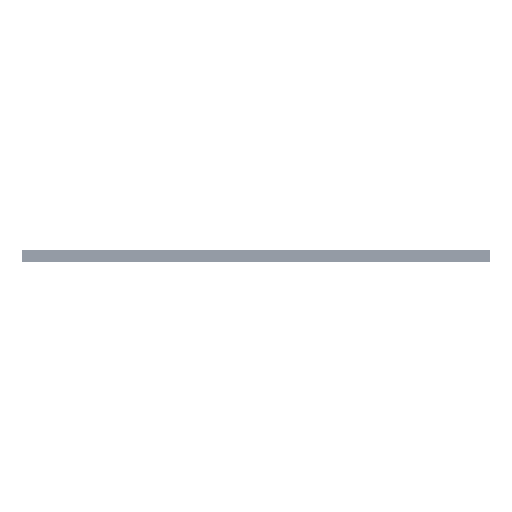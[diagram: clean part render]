
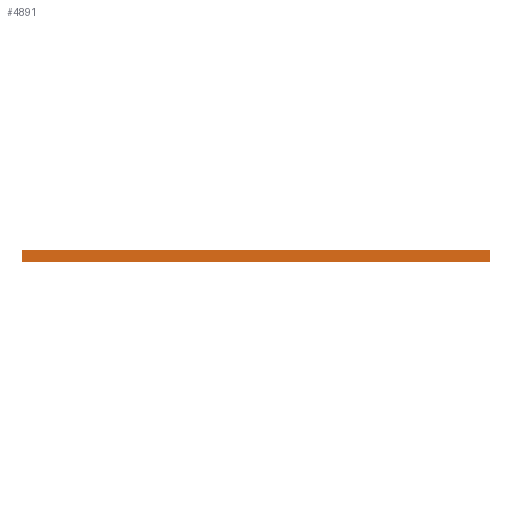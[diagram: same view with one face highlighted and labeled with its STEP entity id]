
A CAD part, front view. The second image highlights one B-rep face of the part: STEP entity #4891.
In plain terms, the highlighted planar face has unit normal (0, -1, 0) as drawn and (0, 0, 1) by its records, which use the part's own axes.
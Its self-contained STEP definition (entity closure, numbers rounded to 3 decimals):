
#531=PLANE('',#5345);
#711=LINE('',#6998,#1295);
#714=LINE('',#7004,#1298);
#715=LINE('',#7006,#1299);
#716=LINE('',#7008,#1300);
#1295=VECTOR('',#5960,1000.);
#1298=VECTOR('',#5965,1000.);
#1299=VECTOR('',#5966,1000.);
#1300=VECTOR('',#5967,1000.);
#2214=ORIENTED_EDGE('',*,*,#3298,.T.);
#2215=ORIENTED_EDGE('',*,*,#3299,.F.);
#2216=ORIENTED_EDGE('',*,*,#3300,.F.);
#2217=ORIENTED_EDGE('',*,*,#3295,.T.);
#3295=EDGE_CURVE('',#3880,#3879,#711,.T.);
#3298=EDGE_CURVE('',#3879,#3882,#714,.T.);
#3299=EDGE_CURVE('',#3883,#3882,#715,.T.);
#3300=EDGE_CURVE('',#3880,#3883,#716,.T.);
#3879=VERTEX_POINT('',#6997);
#3880=VERTEX_POINT('',#6999);
#3882=VERTEX_POINT('',#7005);
#3883=VERTEX_POINT('',#7007);
#4259=EDGE_LOOP('',(#2214,#2215,#2216,#2217));
#4555=FACE_BOUND('',#4259,.T.);
#4891=ADVANCED_FACE('',(#4555),#531,.F.);
#5345=AXIS2_PLACEMENT_3D('',#7003,#5963,#5964);
#5960=DIRECTION('',(-1.,0.,0.));
#5963=DIRECTION('',(0.,0.,-1.));
#5964=DIRECTION('',(-1.,0.,0.));
#5965=DIRECTION('',(0.,-1.,0.));
#5966=DIRECTION('',(-1.,0.,0.));
#5967=DIRECTION('',(0.,-1.,0.));
#6997=CARTESIAN_POINT('',(-600.,0.,500.));
#6998=CARTESIAN_POINT('',(600.,0.,500.));
#6999=CARTESIAN_POINT('',(600.,0.,500.));
#7003=CARTESIAN_POINT('',(600.,0.,500.));
#7004=CARTESIAN_POINT('',(-600.,0.,500.));
#7005=CARTESIAN_POINT('',(-600.,-30.,500.));
#7006=CARTESIAN_POINT('',(600.,-30.,500.));
#7007=CARTESIAN_POINT('',(600.,-30.,500.));
#7008=CARTESIAN_POINT('',(600.,0.,500.));
